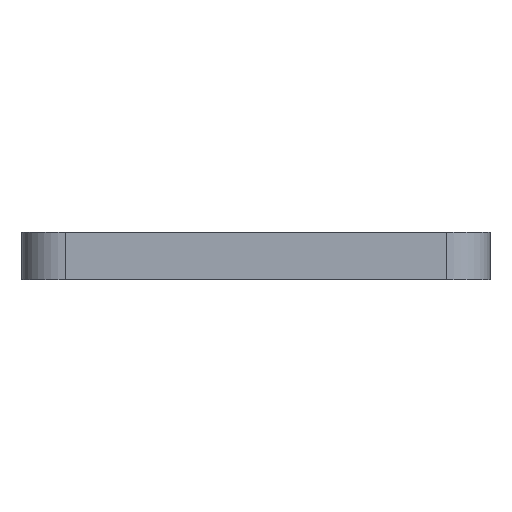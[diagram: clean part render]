
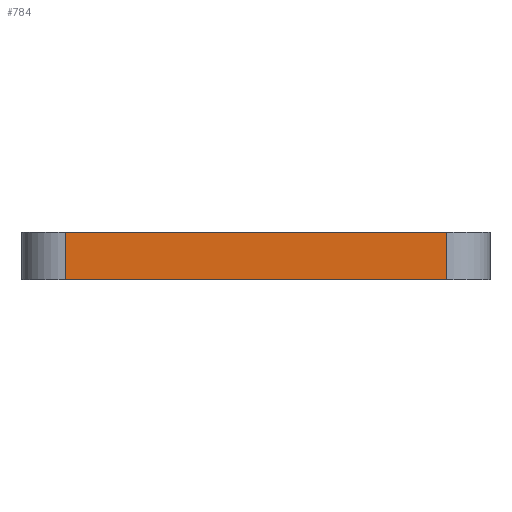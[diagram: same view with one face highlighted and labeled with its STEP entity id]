
A CAD part, left-side view. The second image highlights one B-rep face of the part: STEP entity #784.
In plain terms, the highlighted planar face has unit normal (-1, 0, 0).
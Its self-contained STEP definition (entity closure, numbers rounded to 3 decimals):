
#16 = CARTESIAN_POINT ( 'NONE',  ( -28.878, 0., -4.5 ) ) ;
#46 = LINE ( 'NONE', #461, #694 ) ;
#50 = DIRECTION ( 'NONE',  ( 0., -1., 0. ) ) ;
#125 = VERTEX_POINT ( 'NONE', #972 ) ;
#136 = ORIENTED_EDGE ( 'NONE', *, *, #504, .T. ) ;
#257 = CARTESIAN_POINT ( 'NONE',  ( -28.878, 22.675, 5.5 ) ) ;
#259 = DIRECTION ( 'NONE',  ( -1., 0., 0. ) ) ;
#281 = CARTESIAN_POINT ( 'NONE',  ( -28.878, -21.125, 5.5 ) ) ;
#283 = CARTESIAN_POINT ( 'NONE',  ( -28.878, 0., 5.5 ) ) ;
#347 = DIRECTION ( 'NONE',  ( 0., 0., 1. ) ) ;
#365 = AXIS2_PLACEMENT_3D ( 'NONE', #16, #259, #427 ) ;
#367 = EDGE_CURVE ( 'NONE', #902, #1052, #862, .T. ) ;
#370 = ORIENTED_EDGE ( 'NONE', *, *, #367, .F. ) ;
#427 = DIRECTION ( 'NONE',  ( 0., 0., 1. ) ) ;
#461 = CARTESIAN_POINT ( 'NONE',  ( -28.878, 0., 0. ) ) ;
#483 = VECTOR ( 'NONE', #875, 1000. ) ;
#504 = EDGE_CURVE ( 'NONE', #125, #682, #46, .T. ) ;
#591 = FACE_OUTER_BOUND ( 'NONE', #1097, .T. ) ;
#672 = CARTESIAN_POINT ( 'NONE',  ( -28.878, 22.675, -4.5 ) ) ;
#682 = VERTEX_POINT ( 'NONE', #911 ) ;
#686 = PLANE ( 'NONE',  #365 ) ;
#693 = CARTESIAN_POINT ( 'NONE',  ( -28.878, -21.125, -4.5 ) ) ;
#694 = VECTOR ( 'NONE', #50, 1000. ) ;
#728 = VECTOR ( 'NONE', #347, 1000. ) ;
#756 = LINE ( 'NONE', #672, #1058 ) ;
#784 = ADVANCED_FACE ( 'NONE', ( #591 ), #686, .T. ) ;
#803 = EDGE_CURVE ( 'NONE', #682, #1052, #954, .T. ) ;
#862 = LINE ( 'NONE', #283, #483 ) ;
#866 = ORIENTED_EDGE ( 'NONE', *, *, #980, .F. ) ;
#875 = DIRECTION ( 'NONE',  ( 0., -1., 0. ) ) ;
#897 = ORIENTED_EDGE ( 'NONE', *, *, #803, .T. ) ;
#902 = VERTEX_POINT ( 'NONE', #257 ) ;
#911 = CARTESIAN_POINT ( 'NONE',  ( -28.878, -21.125, 0. ) ) ;
#954 = LINE ( 'NONE', #693, #728 ) ;
#972 = CARTESIAN_POINT ( 'NONE',  ( -28.878, 22.675, 0. ) ) ;
#980 = EDGE_CURVE ( 'NONE', #125, #902, #756, .T. ) ;
#1022 = DIRECTION ( 'NONE',  ( 0., 0., 1. ) ) ;
#1052 = VERTEX_POINT ( 'NONE', #281 ) ;
#1058 = VECTOR ( 'NONE', #1022, 1000. ) ;
#1097 = EDGE_LOOP ( 'NONE', ( #136, #897, #370, #866 ) ) ;
